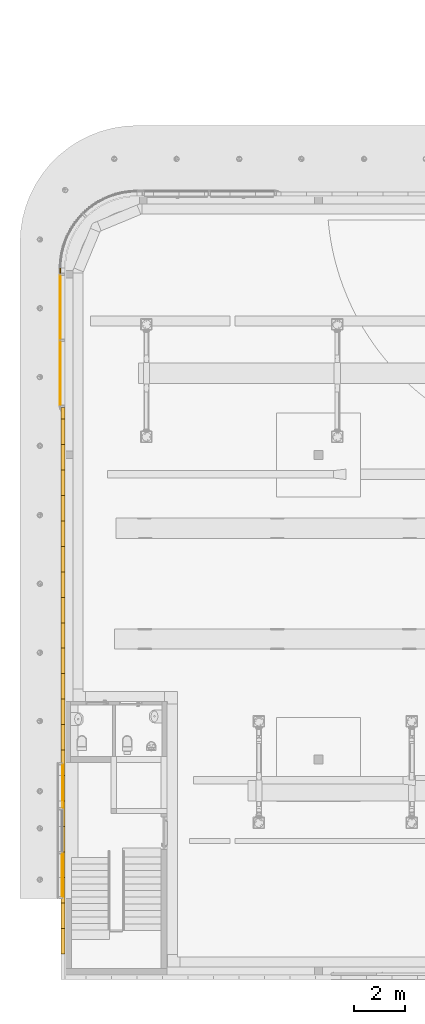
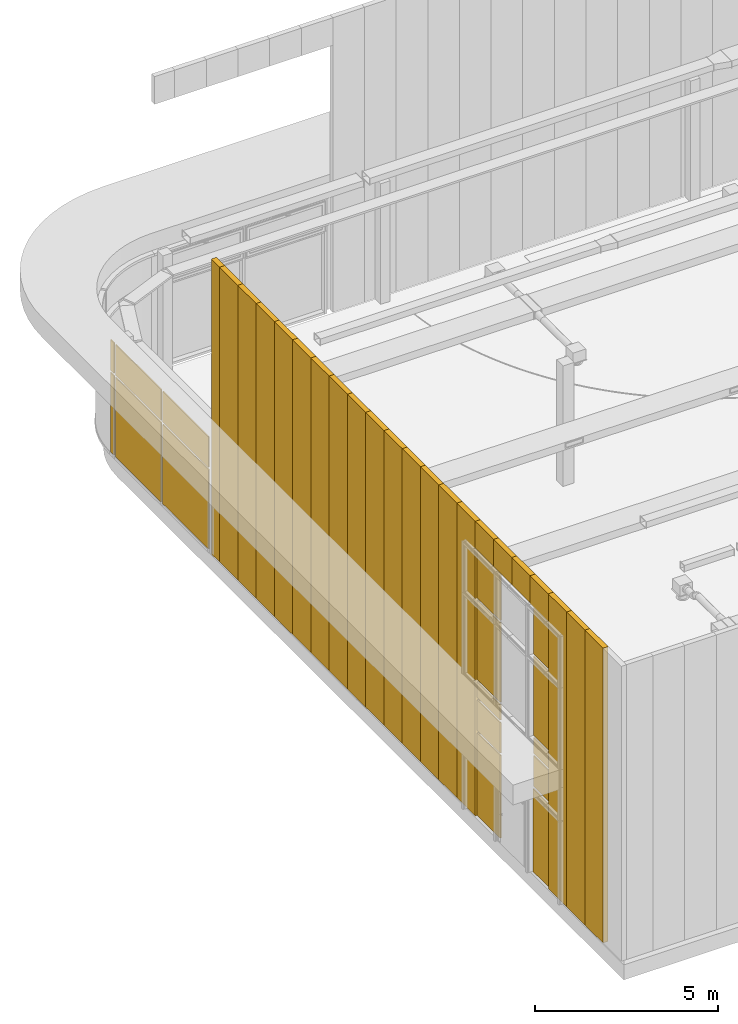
# One storey, part 228 of 302: 38 curtain walls, 2 elements without a shape of their own.
"""IFC2X3 building model written with IfcOpenShell, lengths in metres."""

from ifc_helpers import new_model, entity, si_unit, converted_unit, derived_unit, direction, frame, frame_2d, origin, place, context, subcontext, project, spatial, rectangle, extrude, material, layer, layer_set, layer_usage, type_object, element, aggregate, save


model = new_model("IFC2X3")

# Units and contexts
model_context = context("Model", 3, precision=1e-05, world=origin(), true_north=direction((6.12303176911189e-17, 1.0)))
body_context = subcontext(model_context, "Body", "Model", "MODEL_VIEW")
ifc_project = project(units=[si_unit("LENGTHUNIT", "METRE"), si_unit("AREAUNIT", "SQUARE_METRE"), si_unit("VOLUMEUNIT", "CUBIC_METRE"), converted_unit("PLANEANGLEUNIT", "DEGREE", entity("IfcRatioMeasure", 0.0174532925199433), si_unit("PLANEANGLEUNIT", "RADIAN"), dimensions=[0, 0, 0, 0, 0, 0, 0]), si_unit("MASSUNIT", "GRAM", prefix="KILO"), derived_unit("MASSDENSITYUNIT", [(si_unit("MASSUNIT", "GRAM", prefix="KILO"), 1), (si_unit("LENGTHUNIT", "METRE"), -3)]), derived_unit("MOMENTOFINERTIAUNIT", [(si_unit("LENGTHUNIT", "METRE"), 4)]), si_unit("TIMEUNIT", "SECOND"), si_unit("FREQUENCYUNIT", "HERTZ"), si_unit("THERMODYNAMICTEMPERATUREUNIT", "DEGREE_CELSIUS"), derived_unit("THERMALTRANSMITTANCEUNIT", [(si_unit("MASSUNIT", "GRAM", prefix="KILO"), 1), (si_unit("THERMODYNAMICTEMPERATUREUNIT", "KELVIN"), -1), (si_unit("TIMEUNIT", "SECOND"), -3)]), derived_unit("VOLUMETRICFLOWRATEUNIT", [(si_unit("LENGTHUNIT", "METRE"), 3), (si_unit("TIMEUNIT", "SECOND"), -1)]), si_unit("ELECTRICCURRENTUNIT", "AMPERE"), si_unit("ELECTRICVOLTAGEUNIT", "VOLT"), si_unit("POWERUNIT", "WATT"), si_unit("FORCEUNIT", "NEWTON", prefix="KILO"), si_unit("ILLUMINANCEUNIT", "LUX"), si_unit("LUMINOUSFLUXUNIT", "LUMEN"), si_unit("LUMINOUSINTENSITYUNIT", "CANDELA"), derived_unit("USERDEFINED", [(si_unit("MASSUNIT", "GRAM", prefix="KILO"), -1), (si_unit("LENGTHUNIT", "METRE"), -2), (si_unit("TIMEUNIT", "SECOND"), 3), (si_unit("LUMINOUSFLUXUNIT", "LUMEN"), 1)]), derived_unit("LINEARVELOCITYUNIT", [(si_unit("LENGTHUNIT", "METRE"), 1), (si_unit("TIMEUNIT", "SECOND"), -1)]), si_unit("PRESSUREUNIT", "PASCAL"), derived_unit("USERDEFINED", [(si_unit("LENGTHUNIT", "METRE"), -2), (si_unit("MASSUNIT", "GRAM", prefix="KILO"), 1), (si_unit("TIMEUNIT", "SECOND"), -2)]), derived_unit("LINEARFORCEUNIT", [(si_unit("MASSUNIT", "GRAM", prefix="KILO"), 1), (si_unit("LENGTHUNIT", "METRE"), 1), (si_unit("TIMEUNIT", "SECOND"), -2), (si_unit("LENGTHUNIT", "METRE"), -1)]), derived_unit("PLANARFORCEUNIT", [(si_unit("MASSUNIT", "GRAM", prefix="KILO"), 1), (si_unit("LENGTHUNIT", "METRE"), 1), (si_unit("TIMEUNIT", "SECOND"), -2), (si_unit("LENGTHUNIT", "METRE"), -2)])], contexts=[model_context])

# Site, building, storey
site_placement = place(None, origin())
site = spatial("IfcSite", under=ifc_project, at=site_placement, Name="Default", CompositionType="ELEMENT")
building_placement = place(site_placement, origin())
building = spatial("IfcBuilding", under=site, at=building_placement, CompositionType="ELEMENT")
storey_placement = place(building_placement, frame((0.0, 0.0, -1.3)))
storey = spatial("IfcBuildingStorey", under=building, at=storey_placement, Name="00_EG", CompositionType="ELEMENT", Elevation=-1.3)

# Curtain walls
curtain_wall_type_1 = type_object("IfcCurtainWallType", Name="Fassade:Sandwichpaneele 16cm", PredefinedType="NOTDEFINED")
curtain_wall_1_placement = place(storey_placement, frame((0.0, 0.0, 1.3)))
curtain_wall_1 = element("IfcCurtainWall", 1, at=curtain_wall_1_placement, inside=storey, type_object=curtain_wall_type_1, Name="Fassade:Sandwichpaneele 16cm", ObjectType="Fassade:Sandwichpaneele 16cm")
ifc_material_1 = material(Name="Prepainted_Steel-ArcelorMittal_Construction_HAIRULTRA-35-CORAL-4309-[RAL_3000]")
ifc_layer_1 = layer(ifc_material_1, 0.015)
ifc_material_2 = material(Name="ArcelorMittal-MineralWool")
ifc_layer_2 = layer(ifc_material_2, 0.13)
ifc_material_3 = material(Name="Prepainted_Steel-ArcelorMittal_Construction_INTÉRIEUR-12-WHITE-912")
ifc_layer_3 = layer(ifc_material_3, 0.015)
ifc_layer_set_1 = layer_set([ifc_layer_1, ifc_layer_2, ifc_layer_3], Name="Fassade:Sandwichpaneele 16cm")
ifc_layer_usage_1 = layer_usage(ifc_layer_set_1, "AXIS2", "NEGATIVE", 0.08)
curtain_wall_type_2 = type_object("IfcCurtainWallType", Name="Basiswand:Sandwichpaneele d = 16cm aussen", PredefinedType="NOTDEFINED", material=ifc_layer_set_1)
curtain_wall_2_placement = place(storey_placement, frame((-266.760111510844, 15.8180889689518, 1.27), z_axis=(0.0, 0.0, 1.0), x_axis=(0.0, 1.0, 0.0)))
curtain_wall_2 = element("IfcCurtainWall", 2, at=curtain_wall_2_placement, type_object=curtain_wall_type_2, material=ifc_layer_usage_1, Name="Basiswand:Sandwichpaneele d = 16cm aussen", ObjectType="Basiswand:Sandwichpaneele d = 16cm aussen", context=body_context, shape_type="SweptSolid", body=[
    extrude(rectangle(XDim=1.0, YDim=0.160000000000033, at=frame_2d((0.500000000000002, -2.35922392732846e-15), x_axis=(-1.0, 0.0))), origin(), (0.0, 0.0, 1.0), 9.8509),
])
ifc_layer_usage_2 = layer_usage(ifc_layer_set_1, "AXIS2", "NEGATIVE", 0.08)
curtain_wall_3_placement = place(storey_placement, frame((-266.760111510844, 16.8180889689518, 1.27), z_axis=(0.0, 0.0, 1.0), x_axis=(0.0, 1.0, 0.0)))
curtain_wall_3 = element("IfcCurtainWall", 3, at=curtain_wall_3_placement, type_object=curtain_wall_type_2, material=ifc_layer_usage_2, Name="Basiswand:Sandwichpaneele d = 16cm aussen", ObjectType="Basiswand:Sandwichpaneele d = 16cm aussen", context=body_context, shape_type="SweptSolid", body=[
    extrude(rectangle(XDim=0.999999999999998, YDim=0.160000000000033, at=frame_2d((0.499999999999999, -2.35922392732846e-15), x_axis=(-1.0, 0.0))), origin(), (0.0, 0.0, 1.0), 9.8509),
])
ifc_layer_usage_3 = layer_usage(ifc_layer_set_1, "AXIS2", "NEGATIVE", 0.08)
curtain_wall_4_placement = place(storey_placement, frame((-266.760111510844, 17.8180889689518, 1.27), z_axis=(0.0, 0.0, 1.0), x_axis=(0.0, 1.0, 0.0)))
curtain_wall_4 = element("IfcCurtainWall", 4, at=curtain_wall_4_placement, type_object=curtain_wall_type_2, material=ifc_layer_usage_3, Name="Basiswand:Sandwichpaneele d = 16cm aussen", ObjectType="Basiswand:Sandwichpaneele d = 16cm aussen", context=body_context, shape_type="SweptSolid", body=[
    extrude(rectangle(XDim=1.00000000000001, YDim=0.160000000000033, at=frame_2d((0.500000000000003, 1.49671941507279e-14), x_axis=(-1.0, 0.0))), origin(), (0.0, 0.0, 1.0), 9.8509),
])
ifc_layer_usage_4 = layer_usage(ifc_layer_set_1, "AXIS2", "NEGATIVE", 0.08)
curtain_wall_5_placement = place(storey_placement, frame((-266.760111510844, 23.8180889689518, 1.27), z_axis=(0.0, 0.0, 1.0), x_axis=(0.0, 1.0, 0.0)))
curtain_wall_5 = element("IfcCurtainWall", 5, at=curtain_wall_5_placement, type_object=curtain_wall_type_2, material=ifc_layer_usage_4, Name="Basiswand:Sandwichpaneele d = 16cm aussen", ObjectType="Basiswand:Sandwichpaneele d = 16cm aussen", context=body_context, shape_type="SweptSolid", body=[
    extrude(rectangle(XDim=0.999999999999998, YDim=0.160000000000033, at=frame_2d((0.499999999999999, -2.35922392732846e-15), x_axis=(-1.0, 0.0))), origin(), (0.0, 0.0, 1.0), 9.8509),
])
ifc_layer_usage_5 = layer_usage(ifc_layer_set_1, "AXIS2", "NEGATIVE", 0.08)
curtain_wall_6_placement = place(storey_placement, frame((-266.760111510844, 24.8180889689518, 1.27), z_axis=(0.0, 0.0, 1.0), x_axis=(0.0, 1.0, 0.0)))
curtain_wall_6 = element("IfcCurtainWall", 6, at=curtain_wall_6_placement, type_object=curtain_wall_type_2, material=ifc_layer_usage_5, Name="Basiswand:Sandwichpaneele d = 16cm aussen", ObjectType="Basiswand:Sandwichpaneele d = 16cm aussen", context=body_context, shape_type="SweptSolid", body=[
    extrude(rectangle(XDim=1.0, YDim=0.160000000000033, at=frame_2d((0.500000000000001, -2.35922392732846e-15), x_axis=(-1.0, 0.0))), origin(), (0.0, 0.0, 1.0), 9.8509),
])
ifc_layer_usage_6 = layer_usage(ifc_layer_set_1, "AXIS2", "NEGATIVE", 0.08)
curtain_wall_7_placement = place(storey_placement, frame((-266.760111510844, 25.8180889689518, 1.27), z_axis=(0.0, 0.0, 1.0), x_axis=(0.0, 1.0, 0.0)))
curtain_wall_7 = element("IfcCurtainWall", 7, at=curtain_wall_7_placement, type_object=curtain_wall_type_2, material=ifc_layer_usage_6, Name="Basiswand:Sandwichpaneele d = 16cm aussen", ObjectType="Basiswand:Sandwichpaneele d = 16cm aussen", context=body_context, shape_type="SweptSolid", body=[
    extrude(rectangle(XDim=1.00000000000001, YDim=0.160000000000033, at=frame_2d((0.500000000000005, 1.49671941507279e-14), x_axis=(-1.0, 0.0))), origin(), (0.0, 0.0, 1.0), 9.8509),
])
ifc_layer_usage_7 = layer_usage(ifc_layer_set_1, "AXIS2", "NEGATIVE", 0.08)
curtain_wall_8_placement = place(storey_placement, frame((-266.760111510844, 26.8180889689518, 1.27), z_axis=(0.0, 0.0, 1.0), x_axis=(0.0, 1.0, 0.0)))
curtain_wall_8 = element("IfcCurtainWall", 8, at=curtain_wall_8_placement, type_object=curtain_wall_type_2, material=ifc_layer_usage_7, Name="Basiswand:Sandwichpaneele d = 16cm aussen", ObjectType="Basiswand:Sandwichpaneele d = 16cm aussen", context=body_context, shape_type="SweptSolid", body=[
    extrude(rectangle(XDim=0.999999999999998, YDim=0.160000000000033, at=frame_2d((0.499999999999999, -2.35922392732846e-15), x_axis=(-1.0, 0.0))), origin(), (0.0, 0.0, 1.0), 9.8509),
])
ifc_layer_usage_8 = layer_usage(ifc_layer_set_1, "AXIS2", "NEGATIVE", 0.08)
curtain_wall_9_placement = place(storey_placement, frame((-266.760111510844, 27.8180889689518, 1.27), z_axis=(0.0, 0.0, 1.0), x_axis=(0.0, 1.0, 0.0)))
curtain_wall_9 = element("IfcCurtainWall", 9, at=curtain_wall_9_placement, type_object=curtain_wall_type_2, material=ifc_layer_usage_8, Name="Basiswand:Sandwichpaneele d = 16cm aussen", ObjectType="Basiswand:Sandwichpaneele d = 16cm aussen", context=body_context, shape_type="SweptSolid", body=[
    extrude(rectangle(XDim=0.999999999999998, YDim=0.160000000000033, at=frame_2d((0.499999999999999, -2.35922392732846e-15), x_axis=(-1.0, 0.0))), origin(), (0.0, 0.0, 1.0), 9.8509),
])
ifc_layer_usage_9 = layer_usage(ifc_layer_set_1, "AXIS2", "NEGATIVE", 0.08)
curtain_wall_10_placement = place(storey_placement, frame((-266.760111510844, 28.8180889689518, 1.27), z_axis=(0.0, 0.0, 1.0), x_axis=(0.0, 1.0, 0.0)))
curtain_wall_10 = element("IfcCurtainWall", 10, at=curtain_wall_10_placement, type_object=curtain_wall_type_2, material=ifc_layer_usage_9, Name="Basiswand:Sandwichpaneele d = 16cm aussen", ObjectType="Basiswand:Sandwichpaneele d = 16cm aussen", context=body_context, shape_type="SweptSolid", body=[
    extrude(rectangle(XDim=1.0, YDim=0.160000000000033, at=frame_2d((0.500000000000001, -2.35922392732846e-15), x_axis=(-1.0, 0.0))), origin(), (0.0, 0.0, 1.0), 9.8509),
])
ifc_layer_usage_10 = layer_usage(ifc_layer_set_1, "AXIS2", "NEGATIVE", 0.08)
curtain_wall_11_placement = place(storey_placement, frame((-266.760111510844, 29.8180889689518, 1.27), z_axis=(0.0, 0.0, 1.0), x_axis=(0.0, 1.0, 0.0)))
curtain_wall_11 = element("IfcCurtainWall", 11, at=curtain_wall_11_placement, type_object=curtain_wall_type_2, material=ifc_layer_usage_10, Name="Basiswand:Sandwichpaneele d = 16cm aussen", ObjectType="Basiswand:Sandwichpaneele d = 16cm aussen", context=body_context, shape_type="SweptSolid", body=[
    extrude(rectangle(XDim=1.0, YDim=0.160000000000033, at=frame_2d((0.500000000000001, -2.35922392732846e-15), x_axis=(-1.0, 0.0))), origin(), (0.0, 0.0, 1.0), 9.8509),
])
ifc_layer_usage_11 = layer_usage(ifc_layer_set_1, "AXIS2", "NEGATIVE", 0.08)
curtain_wall_12_placement = place(storey_placement, frame((-266.760111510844, 30.8180889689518, 1.27), z_axis=(0.0, 0.0, 1.0), x_axis=(0.0, 1.0, 0.0)))
curtain_wall_12 = element("IfcCurtainWall", 12, at=curtain_wall_12_placement, type_object=curtain_wall_type_2, material=ifc_layer_usage_11, Name="Basiswand:Sandwichpaneele d = 16cm aussen", ObjectType="Basiswand:Sandwichpaneele d = 16cm aussen", context=body_context, shape_type="SweptSolid", body=[
    extrude(rectangle(XDim=0.999999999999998, YDim=0.160000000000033, at=frame_2d((0.499999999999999, -2.35922392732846e-15), x_axis=(-1.0, 0.0))), origin(), (0.0, 0.0, 1.0), 9.8509),
])
ifc_layer_usage_12 = layer_usage(ifc_layer_set_1, "AXIS2", "NEGATIVE", 0.08)
curtain_wall_13_placement = place(storey_placement, frame((-266.760111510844, 31.8180889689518, 1.27), z_axis=(0.0, 0.0, 1.0), x_axis=(0.0, 1.0, 0.0)))
curtain_wall_13 = element("IfcCurtainWall", 13, at=curtain_wall_13_placement, type_object=curtain_wall_type_2, material=ifc_layer_usage_12, Name="Basiswand:Sandwichpaneele d = 16cm aussen", ObjectType="Basiswand:Sandwichpaneele d = 16cm aussen", context=body_context, shape_type="SweptSolid", body=[
    extrude(rectangle(XDim=0.999999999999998, YDim=0.160000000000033, at=frame_2d((0.499999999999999, -2.35922392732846e-15), x_axis=(-1.0, 0.0))), origin(), (0.0, 0.0, 1.0), 9.8509),
])
ifc_layer_usage_13 = layer_usage(ifc_layer_set_1, "AXIS2", "NEGATIVE", 0.08)
curtain_wall_14_placement = place(storey_placement, frame((-266.760111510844, 32.8180889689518, 1.27), z_axis=(0.0, 0.0, 1.0), x_axis=(0.0, 1.0, 0.0)))
curtain_wall_14 = element("IfcCurtainWall", 14, at=curtain_wall_14_placement, type_object=curtain_wall_type_2, material=ifc_layer_usage_13, Name="Basiswand:Sandwichpaneele d = 16cm aussen", ObjectType="Basiswand:Sandwichpaneele d = 16cm aussen", context=body_context, shape_type="SweptSolid", body=[
    extrude(rectangle(XDim=1.0, YDim=0.160000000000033, at=frame_2d((0.500000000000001, 1.49671941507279e-14), x_axis=(-1.0, 0.0))), origin(), (0.0, 0.0, 1.0), 9.8509),
])
ifc_layer_usage_14 = layer_usage(ifc_layer_set_1, "AXIS2", "NEGATIVE", 0.08)
curtain_wall_15_placement = place(storey_placement, frame((-266.760111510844, 33.8180889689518, 1.27), z_axis=(0.0, 0.0, 1.0), x_axis=(0.0, 1.0, 0.0)))
curtain_wall_15 = element("IfcCurtainWall", 15, at=curtain_wall_15_placement, type_object=curtain_wall_type_2, material=ifc_layer_usage_14, Name="Basiswand:Sandwichpaneele d = 16cm aussen", ObjectType="Basiswand:Sandwichpaneele d = 16cm aussen", context=body_context, shape_type="SweptSolid", body=[
    extrude(rectangle(XDim=0.999999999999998, YDim=0.160000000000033, at=frame_2d((0.499999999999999, -2.35922392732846e-15), x_axis=(-1.0, 0.0))), origin(), (0.0, 0.0, 1.0), 9.8509),
])
ifc_layer_usage_15 = layer_usage(ifc_layer_set_1, "AXIS2", "NEGATIVE", 0.08)
curtain_wall_16_placement = place(storey_placement, frame((-266.760111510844, 34.8180889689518, 1.27), z_axis=(0.0, 0.0, 1.0), x_axis=(0.0, 1.0, 0.0)))
curtain_wall_16 = element("IfcCurtainWall", 16, at=curtain_wall_16_placement, type_object=curtain_wall_type_2, material=ifc_layer_usage_15, Name="Basiswand:Sandwichpaneele d = 16cm aussen", ObjectType="Basiswand:Sandwichpaneele d = 16cm aussen", context=body_context, shape_type="SweptSolid", body=[
    extrude(rectangle(XDim=0.999999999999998, YDim=0.160000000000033, at=frame_2d((0.499999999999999, -2.35922392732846e-15), x_axis=(-1.0, 0.0))), origin(), (0.0, 0.0, 1.0), 9.8509),
])
ifc_layer_usage_16 = layer_usage(ifc_layer_set_1, "AXIS2", "NEGATIVE", 0.08)
curtain_wall_17_placement = place(storey_placement, frame((-266.760111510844, 35.8180889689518, 1.27), z_axis=(0.0, 0.0, 1.0), x_axis=(0.0, 1.0, 0.0)))
curtain_wall_17 = element("IfcCurtainWall", 17, at=curtain_wall_17_placement, type_object=curtain_wall_type_2, material=ifc_layer_usage_16, Name="Basiswand:Sandwichpaneele d = 16cm aussen", ObjectType="Basiswand:Sandwichpaneele d = 16cm aussen", context=body_context, shape_type="SweptSolid", body=[
    extrude(rectangle(XDim=0.999999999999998, YDim=0.160000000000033, at=frame_2d((0.499999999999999, -2.35922392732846e-15), x_axis=(-1.0, 0.0))), origin(), (0.0, 0.0, 1.0), 9.8509),
])
ifc_layer_usage_17 = layer_usage(ifc_layer_set_1, "AXIS2", "NEGATIVE", 0.08)
curtain_wall_18_placement = place(storey_placement, frame((-266.760111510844, 36.8180889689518, 1.27), z_axis=(0.0, 0.0, 1.0), x_axis=(0.0, 1.0, 0.0)))
curtain_wall_18 = element("IfcCurtainWall", 18, at=curtain_wall_18_placement, type_object=curtain_wall_type_2, material=ifc_layer_usage_17, Name="Basiswand:Sandwichpaneele d = 16cm aussen", ObjectType="Basiswand:Sandwichpaneele d = 16cm aussen", context=body_context, shape_type="SweptSolid", body=[
    extrude(rectangle(XDim=0.451002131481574, YDim=0.160000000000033, at=frame_2d((0.225501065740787, -1.06165076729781e-15), x_axis=(-1.0, 0.0))), origin(), (0.0, 0.0, 1.0), 9.8509),
])
ifc_layer_usage_18 = layer_usage(ifc_layer_set_1, "AXIS2", "NEGATIVE", 0.08)
curtain_wall_19_placement = place(storey_placement, frame((-266.760111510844, 18.8180889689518, 10.18), z_axis=(0.0, 0.0, 1.0), x_axis=(0.0, 1.0, 0.0)))
curtain_wall_19 = element("IfcCurtainWall", 19, at=curtain_wall_19_placement, type_object=curtain_wall_type_2, material=ifc_layer_usage_18, Name="Basiswand:Sandwichpaneele d = 16cm aussen", ObjectType="Basiswand:Sandwichpaneele d = 16cm aussen", context=body_context, shape_type="SweptSolid", body=[
    extrude(rectangle(XDim=0.999999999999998, YDim=0.160000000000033, at=frame_2d((0.499999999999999, -2.35922392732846e-15), x_axis=(-1.0, 0.0))), origin(), (0.0, 0.0, 1.0), 0.940900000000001),
])
ifc_layer_usage_19 = layer_usage(ifc_layer_set_1, "AXIS2", "NEGATIVE", 0.08)
curtain_wall_20_placement = place(storey_placement, frame((-266.760111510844, 19.8180889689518, 10.22), z_axis=(0.0, 0.0, 1.0), x_axis=(0.0, 1.0, 0.0)))
curtain_wall_20 = element("IfcCurtainWall", 20, at=curtain_wall_20_placement, type_object=curtain_wall_type_2, material=ifc_layer_usage_19, Name="Basiswand:Sandwichpaneele d = 16cm aussen", ObjectType="Basiswand:Sandwichpaneele d = 16cm aussen", context=body_context, shape_type="SweptSolid", body=[
    extrude(rectangle(XDim=1.0, YDim=0.160000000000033, at=frame_2d((0.500000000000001, -2.35922392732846e-15), x_axis=(-1.0, 0.0))), origin(), (0.0, 0.0, 1.0), 0.900900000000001),
])
ifc_layer_usage_20 = layer_usage(ifc_layer_set_1, "AXIS2", "NEGATIVE", 0.08)
curtain_wall_21_placement = place(storey_placement, frame((-266.760111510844, 20.8180889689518, 10.22), z_axis=(0.0, 0.0, 1.0), x_axis=(0.0, 1.0, 0.0)))
curtain_wall_21 = element("IfcCurtainWall", 21, at=curtain_wall_21_placement, type_object=curtain_wall_type_2, material=ifc_layer_usage_20, Name="Basiswand:Sandwichpaneele d = 16cm aussen", ObjectType="Basiswand:Sandwichpaneele d = 16cm aussen", context=body_context, shape_type="SweptSolid", body=[
    extrude(rectangle(XDim=0.999999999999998, YDim=0.160000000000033, at=frame_2d((0.499999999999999, -2.35922392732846e-15), x_axis=(-1.0, 0.0))), origin(), (0.0, 0.0, 1.0), 0.900900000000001),
])
ifc_layer_usage_21 = layer_usage(ifc_layer_set_1, "AXIS2", "NEGATIVE", 0.08)
curtain_wall_22_placement = place(storey_placement, frame((-266.760111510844, 21.8180889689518, 10.22), z_axis=(0.0, 0.0, 1.0), x_axis=(0.0, 1.0, 0.0)))
curtain_wall_22 = element("IfcCurtainWall", 22, at=curtain_wall_22_placement, type_object=curtain_wall_type_2, material=ifc_layer_usage_21, Name="Basiswand:Sandwichpaneele d = 16cm aussen", ObjectType="Basiswand:Sandwichpaneele d = 16cm aussen", context=body_context, shape_type="SweptSolid", body=[
    extrude(rectangle(XDim=0.999999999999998, YDim=0.160000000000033, at=frame_2d((0.499999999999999, -2.35922392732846e-15), x_axis=(-1.0, 0.0))), origin(), (0.0, 0.0, 1.0), 0.900900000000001),
])
ifc_layer_usage_22 = layer_usage(ifc_layer_set_1, "AXIS2", "NEGATIVE", 0.08)
curtain_wall_23_placement = place(storey_placement, frame((-266.760111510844, 22.8180889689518, 1.27), z_axis=(0.0, 0.0, 1.0), x_axis=(0.0, 1.0, 0.0)))
curtain_wall_23 = element("IfcCurtainWall", 23, at=curtain_wall_23_placement, type_object=curtain_wall_type_2, material=ifc_layer_usage_22, Name="Basiswand:Sandwichpaneele d = 16cm aussen", ObjectType="Basiswand:Sandwichpaneele d = 16cm aussen", context=body_context, shape_type="SweptSolid", body=[
    extrude(rectangle(XDim=0.999999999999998, YDim=0.160000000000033, at=frame_2d((0.499999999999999, -2.35922392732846e-15), x_axis=(-1.0, 0.0))), origin(), (0.0, 0.0, 1.0), 9.8509),
])
ifc_material_4 = material(Name="Glass")
ifc_layer_4 = layer(ifc_material_4, 0.035)
ifc_layer_set_2 = layer_set([ifc_layer_4], Name="Fassade:Sandwichpaneele 16cm")
ifc_layer_usage_23 = layer_usage(ifc_layer_set_2, "AXIS2", "NEGATIVE", 0.0175)
curtain_wall_type_3 = type_object("IfcCurtainWallType", Name="Basiswand:Glass", PredefinedType="NOTDEFINED", material=ifc_layer_set_2)
curtain_wall_24_placement = place(storey_placement, frame((-266.777611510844, 18.063088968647, 1.27), z_axis=(0.0, 0.0, 1.0), x_axis=(0.0, 1.0, 0.0)))
curtain_wall_24 = element("IfcCurtainWall", 24, at=curtain_wall_24_placement, type_object=curtain_wall_type_3, material=ifc_layer_usage_23, Name="Basiswand:Glass", ObjectType="Basiswand:Glass", context=body_context, shape_type="SweptSolid", body=[
    extrude(rectangle(XDim=1.68000000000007, YDim=0.0349999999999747, at=frame_2d((0.840000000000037, 1.33573707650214e-14), x_axis=(-1.0, 0.0))), origin(), (0.0, 0.0, 1.0), 2.76),
])
ifc_layer_usage_24 = layer_usage(ifc_layer_set_2, "AXIS2", "NEGATIVE", 0.0175)
curtain_wall_25_placement = place(storey_placement, frame((-266.760111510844, 21.5630889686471, 1.27), z_axis=(0.0, 0.0, 1.0), x_axis=(0.0, 1.0, 0.0)))
curtain_wall_25 = element("IfcCurtainWall", 25, at=curtain_wall_25_placement, type_object=curtain_wall_type_3, material=ifc_layer_usage_24, Name="Basiswand:Glass", ObjectType="Basiswand:Glass", context=body_context, shape_type="SweptSolid", body=[
    extrude(rectangle(XDim=1.67999999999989, YDim=0.0349999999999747, at=frame_2d((0.839999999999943, -3.96904731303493e-15), x_axis=(-1.0, 0.0))), origin(), (0.0, 0.0, 1.0), 2.76),
])
ifc_layer_usage_25 = layer_usage(ifc_layer_set_2, "AXIS2", "NEGATIVE", 0.0175)
curtain_wall_26_placement = place(storey_placement, frame((-266.760111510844, 18.063088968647, 4.11), z_axis=(0.0, 0.0, 1.0), x_axis=(0.0, 1.0, 0.0)))
curtain_wall_26 = element("IfcCurtainWall", 26, at=curtain_wall_26_placement, type_object=curtain_wall_type_3, material=ifc_layer_usage_25, Name="Basiswand:Glass", ObjectType="Basiswand:Glass", context=body_context, shape_type="SweptSolid", body=[
    extrude(rectangle(XDim=1.68000000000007, YDim=0.0349999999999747, at=frame_2d((0.840000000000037, 1.33573707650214e-14), x_axis=(-1.0, 0.0))), origin(), (0.0, 0.0, 1.0), 1.02),
])
ifc_layer_usage_26 = layer_usage(ifc_layer_set_2, "AXIS2", "NEGATIVE", 0.0175)
curtain_wall_27_placement = place(storey_placement, frame((-266.760111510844, 21.5630889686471, 4.11), z_axis=(0.0, 0.0, 1.0), x_axis=(0.0, 1.0, 0.0)))
curtain_wall_27 = element("IfcCurtainWall", 27, at=curtain_wall_27_placement, type_object=curtain_wall_type_3, material=ifc_layer_usage_26, Name="Basiswand:Glass", ObjectType="Basiswand:Glass", context=body_context, shape_type="SweptSolid", body=[
    extrude(rectangle(XDim=1.67999999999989, YDim=0.0349999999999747, at=frame_2d((0.839999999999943, -3.96904731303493e-15), x_axis=(-1.0, 0.0))), origin(), (0.0, 0.0, 1.0), 1.02),
])
ifc_layer_usage_27 = layer_usage(ifc_layer_set_2, "AXIS2", "NEGATIVE", 0.0175)
curtain_wall_28_placement = place(storey_placement, frame((-266.760111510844, 18.063088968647, 5.21), z_axis=(0.0, 0.0, 1.0), x_axis=(0.0, 1.0, 0.0)))
curtain_wall_28 = element("IfcCurtainWall", 28, at=curtain_wall_28_placement, type_object=curtain_wall_type_3, material=ifc_layer_usage_27, Name="Basiswand:Glass", ObjectType="Basiswand:Glass", context=body_context, shape_type="SweptSolid", body=[
    extrude(rectangle(XDim=1.68000000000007, YDim=0.0349999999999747, at=frame_2d((0.840000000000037, 1.33573707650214e-14), x_axis=(-1.0, 0.0))), origin(), (0.0, 0.0, 1.0), 0.52),
])
ifc_layer_usage_28 = layer_usage(ifc_layer_set_2, "AXIS2", "NEGATIVE", 0.0175)
curtain_wall_29_placement = place(storey_placement, frame((-266.760111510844, 21.5630889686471, 5.21), z_axis=(0.0, 0.0, 1.0), x_axis=(0.0, 1.0, 0.0)))
curtain_wall_29 = element("IfcCurtainWall", 29, at=curtain_wall_29_placement, type_object=curtain_wall_type_3, material=ifc_layer_usage_28, Name="Basiswand:Glass", ObjectType="Basiswand:Glass", context=body_context, shape_type="SweptSolid", body=[
    extrude(rectangle(XDim=1.67999999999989, YDim=0.0349999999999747, at=frame_2d((0.839999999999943, -3.96904731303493e-15), x_axis=(-1.0, 0.0))), origin(), (0.0, 0.0, 1.0), 0.52),
])
ifc_layer_usage_29 = layer_usage(ifc_layer_set_2, "AXIS2", "NEGATIVE", 0.0175)
curtain_wall_30_placement = place(storey_placement, frame((-266.760111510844, 18.063088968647, 5.81), z_axis=(0.0, 0.0, 1.0), x_axis=(0.0, 1.0, 0.0)))
curtain_wall_30 = element("IfcCurtainWall", 30, at=curtain_wall_30_placement, type_object=curtain_wall_type_3, material=ifc_layer_usage_29, Name="Basiswand:Glass", ObjectType="Basiswand:Glass", context=body_context, shape_type="SweptSolid", body=[
    extrude(rectangle(XDim=1.68000000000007, YDim=0.0349999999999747, at=frame_2d((0.840000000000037, 1.33573707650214e-14), x_axis=(-1.0, 0.0))), origin(), (0.0, 0.0, 1.0), 2.65),
])
ifc_layer_usage_30 = layer_usage(ifc_layer_set_2, "AXIS2", "NEGATIVE", 0.0175)
curtain_wall_31_placement = place(storey_placement, frame((-266.760111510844, 21.5630889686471, 5.81), z_axis=(0.0, 0.0, 1.0), x_axis=(0.0, 1.0, 0.0)))
curtain_wall_31 = element("IfcCurtainWall", 31, at=curtain_wall_31_placement, type_object=curtain_wall_type_3, material=ifc_layer_usage_30, Name="Basiswand:Glass", ObjectType="Basiswand:Glass", context=body_context, shape_type="SweptSolid", body=[
    extrude(rectangle(XDim=1.67999999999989, YDim=0.0349999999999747, at=frame_2d((0.839999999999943, -3.96904731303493e-15), x_axis=(-1.0, 0.0))), origin(), (0.0, 0.0, 1.0), 2.65),
])
ifc_layer_usage_31 = layer_usage(ifc_layer_set_2, "AXIS2", "NEGATIVE", 0.0175)
curtain_wall_32_placement = place(storey_placement, frame((-266.760111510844, 18.063088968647, 8.54), z_axis=(0.0, 0.0, 1.0), x_axis=(0.0, 1.0, 0.0)))
curtain_wall_32 = element("IfcCurtainWall", 32, at=curtain_wall_32_placement, type_object=curtain_wall_type_3, material=ifc_layer_usage_31, Name="Basiswand:Glass", ObjectType="Basiswand:Glass", context=body_context, shape_type="SweptSolid", body=[
    extrude(rectangle(XDim=1.68000000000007, YDim=0.0349999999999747, at=frame_2d((0.840000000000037, 1.33573707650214e-14), x_axis=(-1.0, 0.0))), origin(), (0.0, 0.0, 1.0), 1.6),
])
ifc_layer_usage_32 = layer_usage(ifc_layer_set_2, "AXIS2", "NEGATIVE", 0.0175)
curtain_wall_33_placement = place(storey_placement, frame((-266.760111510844, 21.5630889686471, 8.54), z_axis=(0.0, 0.0, 1.0), x_axis=(0.0, 1.0, 0.0)))
curtain_wall_33 = element("IfcCurtainWall", 33, at=curtain_wall_33_placement, type_object=curtain_wall_type_3, material=ifc_layer_usage_32, Name="Basiswand:Glass", ObjectType="Basiswand:Glass", context=body_context, shape_type="SweptSolid", body=[
    extrude(rectangle(XDim=1.67999999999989, YDim=0.0349999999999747, at=frame_2d((0.839999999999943, -3.96904731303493e-15), x_axis=(-1.0, 0.0))), origin(), (0.0, 0.0, 1.0), 1.6),
])
aggregate(curtain_wall_1, [curtain_wall_2, curtain_wall_3, curtain_wall_4, curtain_wall_24, curtain_wall_25, curtain_wall_5, curtain_wall_6, curtain_wall_7, curtain_wall_8, curtain_wall_9, curtain_wall_10, curtain_wall_11, curtain_wall_12, curtain_wall_13, curtain_wall_14, curtain_wall_15, curtain_wall_16, curtain_wall_17, curtain_wall_18, curtain_wall_26, curtain_wall_27, curtain_wall_28, curtain_wall_29, curtain_wall_30, curtain_wall_31, curtain_wall_32, curtain_wall_33, curtain_wall_19, curtain_wall_20, curtain_wall_21, curtain_wall_22, curtain_wall_23])

curtain_wall_type_4 = type_object("IfcCurtainWallType", Name="Fassade:Glasfassade", PredefinedType="NOTDEFINED")
curtain_wall_34_placement = place(storey_placement, frame((0.0, 0.0, 1.3)))
curtain_wall_34 = element("IfcCurtainWall", 34, at=curtain_wall_34_placement, inside=storey, type_object=curtain_wall_type_4, Name="Fassade:Glasfassade", ObjectType="Fassade:Glasfassade")
ifc_layer_usage_33 = layer_usage(ifc_layer_set_2, "AXIS2", "POSITIVE", -0.0175)
curtain_wall_35_placement = place(storey_placement, frame((-266.857611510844, 42.7380889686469, 1.38), z_axis=(0.0, 0.0, 1.0), x_axis=(0.0, -1.0, 0.0)))
curtain_wall_35 = element("IfcCurtainWall", 35, at=curtain_wall_35_placement, type_object=curtain_wall_type_3, material=ifc_layer_usage_33, Name="Basiswand:Glass", ObjectType="Basiswand:Glass", context=body_context, shape_type="SweptSolid", body=[
    extrude(rectangle(XDim=0.193997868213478, YDim=0.0349999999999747, at=frame_2d((0.0969989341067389, 0.0), x_axis=(-1.0, 0.0))), origin(), (0.0, 0.0, 1.0), 2.65000000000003),
])
ifc_layer_usage_34 = layer_usage(ifc_layer_set_2, "AXIS2", "POSITIVE", -0.0175)
curtain_wall_36_placement = place(storey_placement, frame((-266.857611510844, 42.4640911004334, 1.38), z_axis=(0.0, 0.0, 1.0), x_axis=(0.0, -1.0, 0.0)))
curtain_wall_36 = element("IfcCurtainWall", 36, at=curtain_wall_36_placement, type_object=curtain_wall_type_3, material=ifc_layer_usage_34, Name="Basiswand:Glass", ObjectType="Basiswand:Glass", context=body_context, shape_type="SweptSolid", body=[
    extrude(rectangle(XDim=2.51, YDim=0.0349999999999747, at=frame_2d((1.255, 0.0), x_axis=(-1.0, 0.0))), origin(), (0.0, 0.0, 1.0), 2.65000000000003),
])
ifc_layer_usage_35 = layer_usage(ifc_layer_set_2, "AXIS2", "POSITIVE", -0.0175)
curtain_wall_37_placement = place(storey_placement, frame((-266.857611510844, 39.8740911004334, 1.38), z_axis=(0.0, 0.0, 1.0), x_axis=(0.0, -1.0, 0.0)))
curtain_wall_37 = element("IfcCurtainWall", 37, at=curtain_wall_37_placement, type_object=curtain_wall_type_3, material=ifc_layer_usage_35, Name="Basiswand:Glass", ObjectType="Basiswand:Glass", context=body_context, shape_type="SweptSolid", body=[
    extrude(rectangle(XDim=2.50999999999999, YDim=0.0349999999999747, at=frame_2d((1.255, 0.0), x_axis=(-1.0, 0.0))), origin(), (0.0, 0.0, 1.0), 2.65000000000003),
])
ifc_layer_usage_36 = layer_usage(ifc_layer_set_2, "AXIS2", "POSITIVE", -0.0175)
curtain_wall_38_placement = place(storey_placement, frame((-266.857611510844, 42.7380889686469, 4.11000000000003), z_axis=(0.0, 0.0, 1.0), x_axis=(0.0, -1.0, 0.0)))
curtain_wall_38 = element("IfcCurtainWall", 38, at=curtain_wall_38_placement, type_object=curtain_wall_type_3, material=ifc_layer_usage_36, Name="Basiswand:Glass", ObjectType="Basiswand:Glass", context=body_context, shape_type="SweptSolid", body=[
    extrude(rectangle(XDim=0.193997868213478, YDim=0.0349999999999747, at=frame_2d((0.0969989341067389, 0.0), x_axis=(-1.0, 0.0))), origin(), (0.0, 0.0, 1.0), 1.01999999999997),
])
ifc_layer_usage_37 = layer_usage(ifc_layer_set_2, "AXIS2", "POSITIVE", -0.0175)
curtain_wall_39_placement = place(storey_placement, frame((-266.857611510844, 42.4640911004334, 4.11000000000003), z_axis=(0.0, 0.0, 1.0), x_axis=(0.0, -1.0, 0.0)))
curtain_wall_39 = element("IfcCurtainWall", 39, at=curtain_wall_39_placement, type_object=curtain_wall_type_3, material=ifc_layer_usage_37, Name="Basiswand:Glass", ObjectType="Basiswand:Glass", context=body_context, shape_type="SweptSolid", body=[
    extrude(rectangle(XDim=2.51, YDim=0.0349999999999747, at=frame_2d((1.255, 0.0), x_axis=(-1.0, 0.0))), origin(), (0.0, 0.0, 1.0), 1.01999999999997),
])
ifc_layer_usage_38 = layer_usage(ifc_layer_set_2, "AXIS2", "POSITIVE", -0.0175)
curtain_wall_40_placement = place(storey_placement, frame((-266.857611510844, 39.8740911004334, 4.11000000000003), z_axis=(0.0, 0.0, 1.0), x_axis=(0.0, -1.0, 0.0)))
curtain_wall_40 = element("IfcCurtainWall", 40, at=curtain_wall_40_placement, type_object=curtain_wall_type_3, material=ifc_layer_usage_38, Name="Basiswand:Glass", ObjectType="Basiswand:Glass", context=body_context, shape_type="SweptSolid", body=[
    extrude(rectangle(XDim=2.50999999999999, YDim=0.0349999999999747, at=frame_2d((1.255, 0.0), x_axis=(-1.0, 0.0))), origin(), (0.0, 0.0, 1.0), 1.01999999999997),
])
aggregate(curtain_wall_34, [curtain_wall_35, curtain_wall_36, curtain_wall_37, curtain_wall_38, curtain_wall_39, curtain_wall_40])

save(model, "model.ifc")
